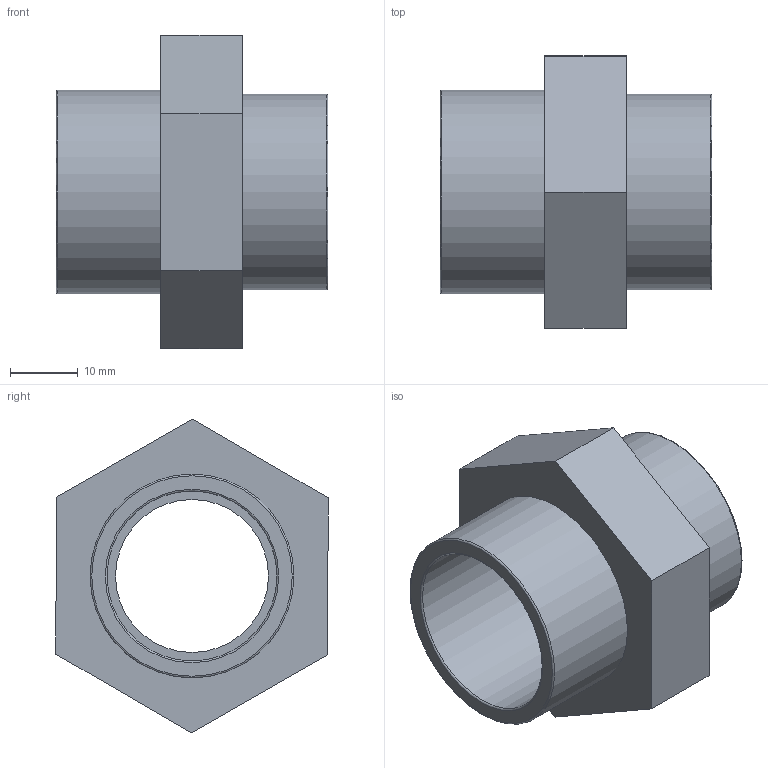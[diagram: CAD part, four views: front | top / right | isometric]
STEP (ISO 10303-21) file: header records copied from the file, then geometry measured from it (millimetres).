
FILE_DESCRIPTION(/* description */ ('PLASSON SOCKET ADAPTOR THR-CEM 25-3/4"'),/* implementation_level */ '2;1');
FILE_NAME(/* name */ 'C:\Dropbox\KIMPROJECTS-Inventor\99-16-3568-Processing\PVC Catalog 2017\050102\050102025007.ipt.stp',/* time_stamp */ '2017-12-07T15:51:52+02:00',/* author */ ('KIM'),/* organization */ (''),/* preprocessor_version */ 'ST-DEVELOPER v15.6',/* originating_system */ 'Autodesk Inventor 2015',/* authorisation */ '');
FILE_SCHEMA (('AUTOMOTIVE_DESIGN { 1 0 10303 214 3 1 1 }'));
Length unit declared in the file: millimetre
Products named in the file (1): 050102025007
Bounding box: 40 x 40.06 x 46.19 mm (x, y, z)
Volume: 16946.4 mm3; surface area: 9260 mm2
Topology: 1 solids, 1 shells, 21 faces, 41 edges, 26 vertices
Faces by surface type: plane 12, cylinder 5, torus 4
Full cylindrical faces by diameter (mm): 22.5 x1, 24.117 x1, 25 x1, 28.75 x1, 30 x1
Entity records: 520 total; most frequent: DIRECTION 90, CARTESIAN_POINT 80, ORIENTED_EDGE 64, EDGE_LOOP 36, AXIS2_PLACEMENT_3D 36, EDGE_CURVE 32, VERTEX_POINT 26, FACE_OUTER_BOUND 21
